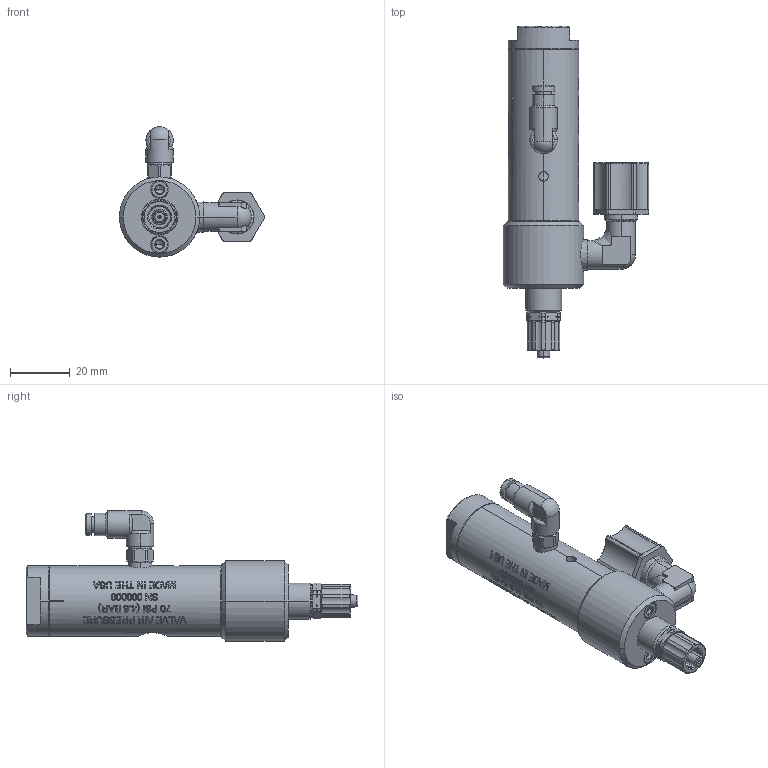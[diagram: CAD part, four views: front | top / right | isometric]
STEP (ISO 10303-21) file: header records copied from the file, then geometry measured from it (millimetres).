
FILE_DESCRIPTION (( 'STEP AP214' ), '1' );
FILE_NAME ('NORDSONEFD-7021239 741V-SS-TR TAMPER RESIST NEEDLE VALVE-SS.STEP', '2019-02-01T14:55:52', ( '' ), ( '' ), 'SwSTEP 2.0', 'SolidWorks 2019', '' );
FILE_SCHEMA (( 'AUTOMOTIVE_DESIGN' ));
Length unit declared in the file: inch
Products named in the file (1): NORDSONEFD-7021239 741V-SS-TR TAMPER RESIST NEEDLE VALVE-SS
Bounding box: 48.67 x 111.24 x 43.69 mm (x, y, z)
Volume: 49016.8 mm3; surface area: 13300.6 mm2
Topology: 1 solids, 1 shells, 1212 faces, 3182 edges, 2068 vertices
Faces by surface type: plane 496, bspline 316, cylinder 240, cone 89, torus 70, sphere 1
Entity records: 56159 total; most frequent: CARTESIAN_POINT 24612, ORIENTED_EDGE 6338, DIRECTION 4729, EDGE_CURVE 3169, VERTEX_POINT 2068, AXIS2_PLACEMENT_3D 1642, VECTOR 1445, LINE 1445
